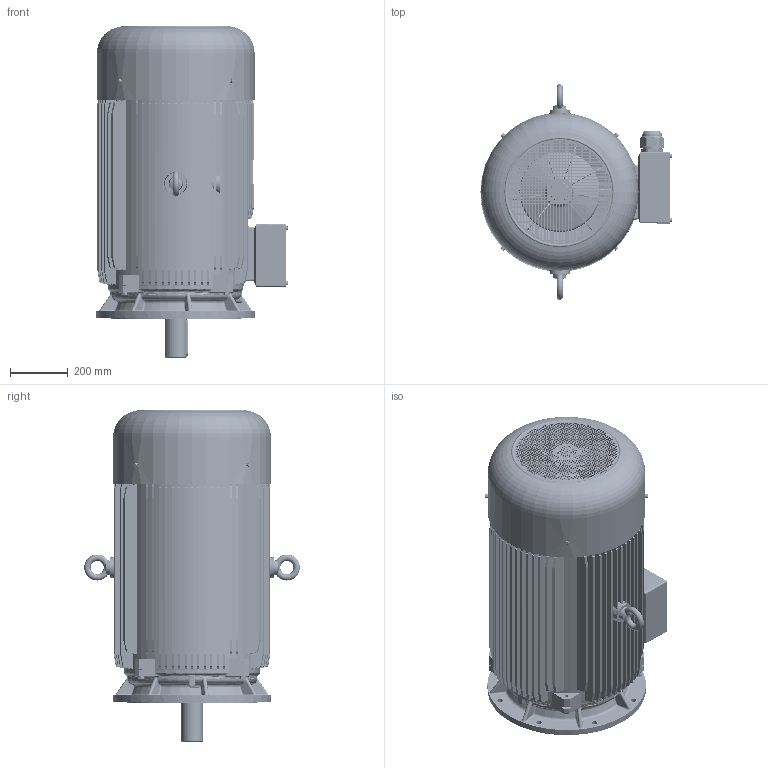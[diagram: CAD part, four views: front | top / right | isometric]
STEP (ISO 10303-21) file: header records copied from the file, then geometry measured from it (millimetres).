
FILE_DESCRIPTION(/* description */ (''),/* implementation_level */ '2;1');
FILE_NAME(/* name */ 'FCM-280M2-4-110KW-B5-IE3.stp',/* time_stamp */ '2017-06-30T10:56:36+08:00',/* author */ (''),/* organization */ (''),/* preprocessor_version */ 'ST-DEVELOPER v16',/* originating_system */ 'SIEMENS PLM Software NX 10.0',/* authorisation */ '');
FILE_SCHEMA (('CONFIG_CONTROL_DESIGN'));
Length unit declared in the file: millimetre
Products named in the file (1): JMG-280M-B5
Bounding box: 662.73 x 748 x 1151.5 mm (x, y, z)
Volume: 45099279 mm3; surface area: 9043702.4 mm2
Topology: 59 solids, 59 shells, 6850 faces, 18947 edges, 12357 vertices
Faces by surface type: plane 4450, cylinder 917, torus 535, bspline 508, cone 426, sphere 14
Full cylindrical faces by diameter (mm): 7.188 x4, 8 x16, 8.4 x4, 9.026 x8, 10 x8, 10.863 x8, 11.2 x8, 11.5 x1, 12 x21, 12.6 x8, 16 x4, 20 x1, 43.312 x2, 51.188 x4, 61.031 x12, 63 x4, 64.969 x12, 67.922 x2, 68 x1, 70 x2, 83.672 x2, 85 x4, 88 x2, 110 x4, 180 x1, 235 x2, 270 x1, 440 x1, 445 x1, 452 x2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
Entity records: 247747 total; most frequent: CARTESIAN_POINT 76927, ORIENTED_EDGE 36974, DIRECTION 31377, EDGE_CURVE 18487, LINE 12663, VECTOR 12663, VERTEX_POINT 12216, AXIS2_PLACEMENT_3D 9357
